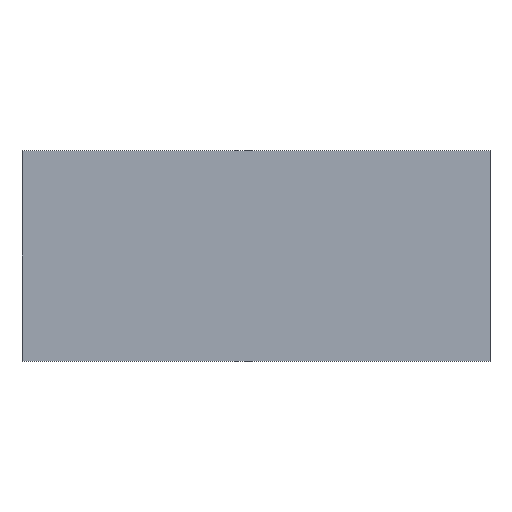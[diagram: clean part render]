
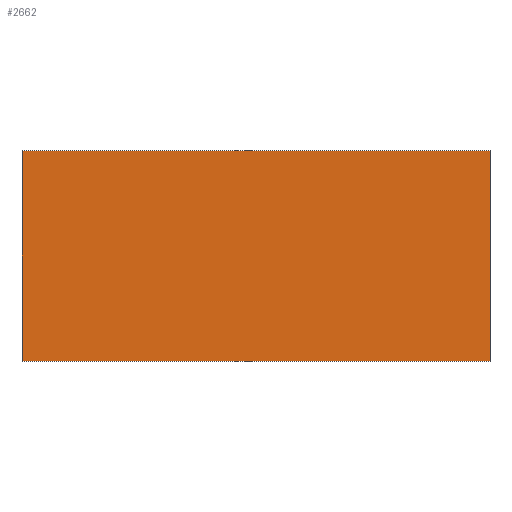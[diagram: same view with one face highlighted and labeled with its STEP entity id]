
A CAD part, front view. The second image highlights one B-rep face of the part: STEP entity #2662.
In plain terms, the highlighted planar face has unit normal (0, -1, 0).
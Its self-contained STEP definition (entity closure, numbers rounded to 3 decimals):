
#421 = CARTESIAN_POINT ( 'NONE',  ( 0., -45., 45. ) ) ;
#507 = VECTOR ( 'NONE', #805, 1000. ) ;
#596 = VECTOR ( 'NONE', #1421, 1000. ) ;
#749 = CARTESIAN_POINT ( 'NONE',  ( 200., -45., -26.65 ) ) ;
#805 = DIRECTION ( 'NONE',  ( 0., 0., -1. ) ) ;
#835 = CARTESIAN_POINT ( 'NONE',  ( 200., -45., 45. ) ) ;
#980 = CARTESIAN_POINT ( 'NONE',  ( 200., -45., 45. ) ) ;
#1007 = VECTOR ( 'NONE', #1273, 1000. ) ;
#1035 = LINE ( 'NONE', #980, #596 ) ;
#1210 = LINE ( 'NONE', #749, #3726 ) ;
#1273 = DIRECTION ( 'NONE',  ( -1., 0., 0. ) ) ;
#1421 = DIRECTION ( 'NONE',  ( -1., 0., 0. ) ) ;
#1641 = ORIENTED_EDGE ( 'NONE', *, *, #4566, .T. ) ;
#1782 = CARTESIAN_POINT ( 'NONE',  ( 0., -45., 18.35 ) ) ;
#1834 = VERTEX_POINT ( 'NONE', #421 ) ;
#2046 = DIRECTION ( 'NONE',  ( 0., 0., 1. ) ) ;
#2491 = FACE_OUTER_BOUND ( 'NONE', #3815, .T. ) ;
#2662 = ADVANCED_FACE ( 'NONE', ( #2491 ), #3825, .F. ) ;
#2745 = EDGE_CURVE ( 'NONE', #3836, #5089, #4946, .T. ) ;
#3473 = VERTEX_POINT ( 'NONE', #835 ) ;
#3492 = CARTESIAN_POINT ( 'NONE',  ( 200., -45., -45.001 ) ) ;
#3557 = ORIENTED_EDGE ( 'NONE', *, *, #5808, .F. ) ;
#3726 = VECTOR ( 'NONE', #4823, 1000. ) ;
#3815 = EDGE_LOOP ( 'NONE', ( #4303, #5389, #3557, #1641 ) ) ;
#3825 = PLANE ( 'NONE',  #4405 ) ;
#3836 = VERTEX_POINT ( 'NONE', #3492 ) ;
#4258 = CARTESIAN_POINT ( 'NONE',  ( 200., -45., 18.35 ) ) ;
#4289 = DIRECTION ( 'NONE',  ( 0., 1., 0. ) ) ;
#4303 = ORIENTED_EDGE ( 'NONE', *, *, #5572, .T. ) ;
#4405 = AXIS2_PLACEMENT_3D ( 'NONE', #4258, #4289, #2046 ) ;
#4566 = EDGE_CURVE ( 'NONE', #3473, #1834, #1035, .T. ) ;
#4823 = DIRECTION ( 'NONE',  ( 0., 0., -1. ) ) ;
#4860 = LINE ( 'NONE', #1782, #507 ) ;
#4946 = LINE ( 'NONE', #5398, #1007 ) ;
#5089 = VERTEX_POINT ( 'NONE', #5237 ) ;
#5237 = CARTESIAN_POINT ( 'NONE',  ( 0., -45., -45.001 ) ) ;
#5389 = ORIENTED_EDGE ( 'NONE', *, *, #2745, .F. ) ;
#5398 = CARTESIAN_POINT ( 'NONE',  ( 200., -45., -45.001 ) ) ;
#5572 = EDGE_CURVE ( 'NONE', #1834, #5089, #4860, .T. ) ;
#5808 = EDGE_CURVE ( 'NONE', #3473, #3836, #1210, .T. ) ;
